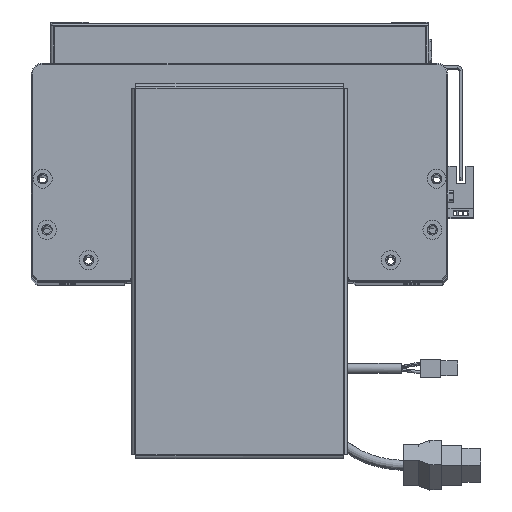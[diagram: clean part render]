
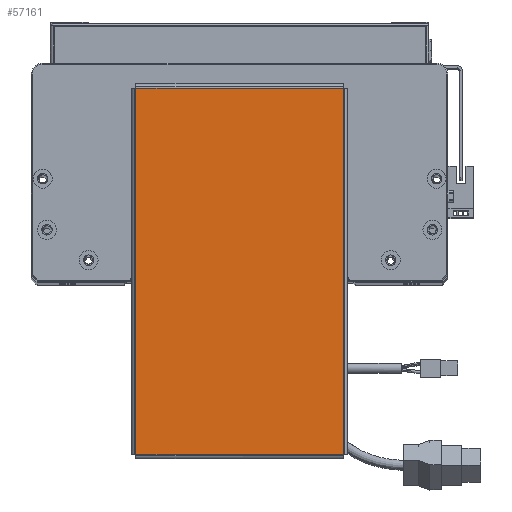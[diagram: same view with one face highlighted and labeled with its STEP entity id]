
A CAD part, top view. The second image highlights one B-rep face of the part: STEP entity #57161.
In plain terms, the highlighted planar face has unit normal (0, 0, 1).
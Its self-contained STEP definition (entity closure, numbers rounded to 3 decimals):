
#576 = DIRECTION ( 'NONE',  ( -1., 0., 0. ) ) ;
#611 = LINE ( 'NONE', #61190, #49836 ) ;
#6433 = EDGE_CURVE ( 'NONE', #55021, #63613, #25381, .T. ) ;
#8062 = EDGE_CURVE ( 'NONE', #61566, #26606, #50563, .T. ) ;
#10559 = VECTOR ( 'NONE', #40003, 1000. ) ;
#10958 = EDGE_CURVE ( 'NONE', #26606, #55021, #611, .T. ) ;
#14035 = ORIENTED_EDGE ( 'NONE', *, *, #10958, .T. ) ;
#14097 = EDGE_CURVE ( 'NONE', #63613, #61566, #24079, .T. ) ;
#17270 = PLANE ( 'NONE',  #39706 ) ;
#18184 = CARTESIAN_POINT ( 'NONE',  ( 96.763, -54.763, 0. ) ) ;
#19484 = CARTESIAN_POINT ( 'NONE',  ( -96.763, -54.763, 0. ) ) ;
#19727 = ORIENTED_EDGE ( 'NONE', *, *, #8062, .T. ) ;
#22631 = DIRECTION ( 'NONE',  ( 0., 0., 1. ) ) ;
#23460 = ORIENTED_EDGE ( 'NONE', *, *, #14097, .T. ) ;
#24079 = LINE ( 'NONE', #24271, #10559 ) ;
#24271 = CARTESIAN_POINT ( 'NONE',  ( -96.793, -54.763, 0. ) ) ;
#24883 = DIRECTION ( 'NONE',  ( 0., 1., 0. ) ) ;
#25381 = LINE ( 'NONE', #52571, #59505 ) ;
#26606 = VERTEX_POINT ( 'NONE', #57478 ) ;
#26677 = ORIENTED_EDGE ( 'NONE', *, *, #6433, .T. ) ;
#29550 = CARTESIAN_POINT ( 'NONE',  ( 96.763, -54.793, 0. ) ) ;
#37208 = CARTESIAN_POINT ( 'NONE',  ( -96.763, 54.763, 0. ) ) ;
#39445 = VECTOR ( 'NONE', #24883, 1000. ) ;
#39706 = AXIS2_PLACEMENT_3D ( 'NONE', #53253, #22631, #48339 ) ;
#40003 = DIRECTION ( 'NONE',  ( 1., 0., 0. ) ) ;
#41693 = FACE_OUTER_BOUND ( 'NONE', #54679, .T. ) ;
#41714 = DIRECTION ( 'NONE',  ( 0., -1., 0. ) ) ;
#48339 = DIRECTION ( 'NONE',  ( 1., 0., 0. ) ) ;
#49836 = VECTOR ( 'NONE', #576, 1000. ) ;
#50563 = LINE ( 'NONE', #29550, #39445 ) ;
#52571 = CARTESIAN_POINT ( 'NONE',  ( -96.763, 54.793, 0. ) ) ;
#53253 = CARTESIAN_POINT ( 'NONE',  ( 0., 0., 0. ) ) ;
#54679 = EDGE_LOOP ( 'NONE', ( #23460, #19727, #14035, #26677 ) ) ;
#55021 = VERTEX_POINT ( 'NONE', #37208 ) ;
#57161 = ADVANCED_FACE ( 'NONE', ( #41693 ), #17270, .T. ) ;
#57478 = CARTESIAN_POINT ( 'NONE',  ( 96.763, 54.763, 0. ) ) ;
#59505 = VECTOR ( 'NONE', #41714, 1000. ) ;
#61190 = CARTESIAN_POINT ( 'NONE',  ( 96.793, 54.763, 0. ) ) ;
#61566 = VERTEX_POINT ( 'NONE', #18184 ) ;
#63613 = VERTEX_POINT ( 'NONE', #19484 ) ;
